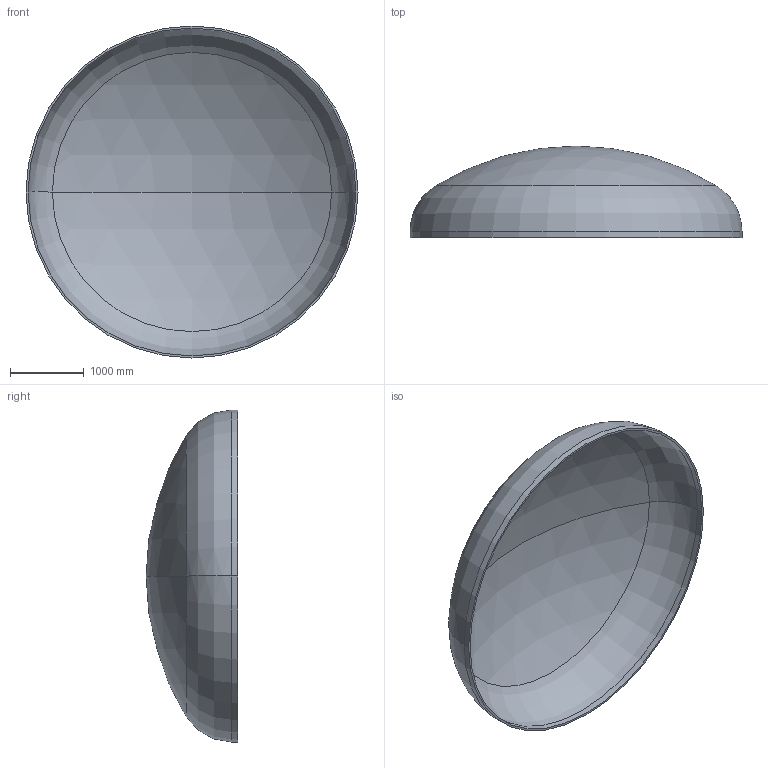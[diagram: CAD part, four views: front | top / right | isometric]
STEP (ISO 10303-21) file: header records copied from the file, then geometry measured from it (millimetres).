
FILE_DESCRIPTION (( 'STEP AP203' ), '1' );
FILE_NAME ('DIN 28013 Korbbogenform_-_Boden DIN 28013 - 4500 x 85 - I - s=28.step', '2016-07-01T23:15:02', ( '' ), ( '' ), 'SwSTEP 2.0', 'SolidWorks 2013', '' );
FILE_SCHEMA (( 'CONFIG_CONTROL_DESIGN' ));
Length unit declared in the file: millimetre
Products named in the file (1): DIN 28013 Korbbogenform_-_Boden DIN 28013 - 4500 x 85 - I - s=28
Bounding box: 4500 x 1241.71 x 4500 mm (x, y, z)
Volume: 645503731.2 mm3; surface area: 46502411.1 mm2
Topology: 1 solids, 1 shells, 13 faces, 24 edges, 14 vertices
Faces by surface type: torus 4, cylinder 4, sphere 4, plane 1
Entity records: 407 total; most frequent: DIRECTION 72, CARTESIAN_POINT 52, ORIENTED_EDGE 48, AXIS2_PLACEMENT_3D 34, EDGE_CURVE 24, CIRCLE 20, VERTEX_POINT 14, EDGE_LOOP 14
